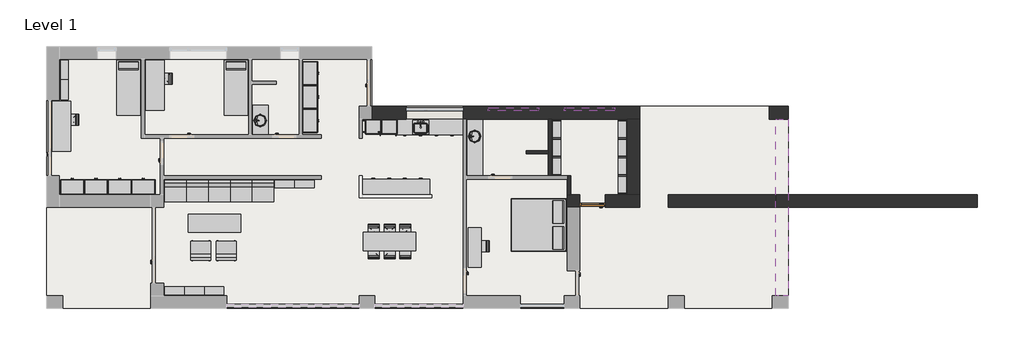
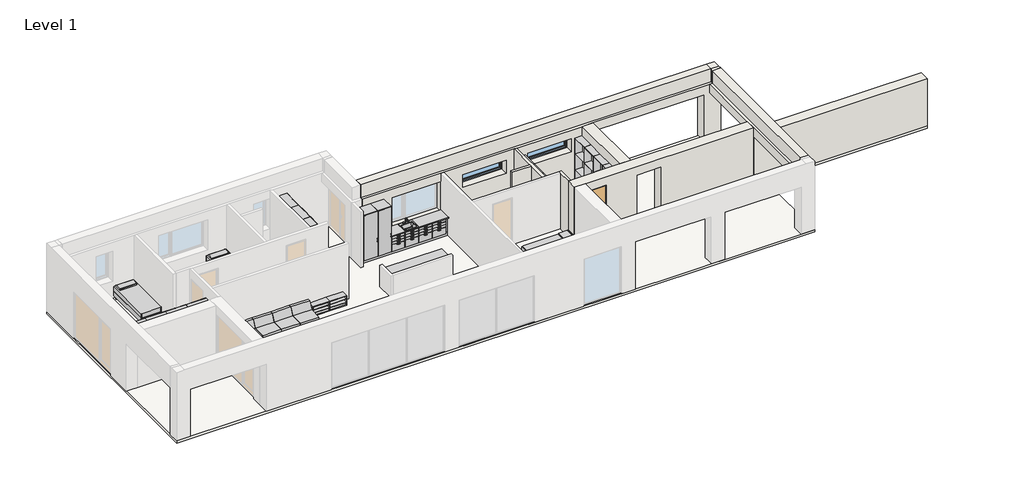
# One storey, part 2 of 2: 65 furniture elements, 8 walls, 3 flow terminals, 2 windows, 1 door, 1 slab.
"""IFC4 building model written with IfcOpenShell, lengths in millimetres."""

from ifc_helpers import new_model, si_unit, frame, origin, origin_with_axes, place, context, project, spatial, polyline, outline, extrude, faceted_brep, transform, mapped, element, save
from components import ext_single_flush1_960x2200_mm_7c25dc53, sink_kitchen_single_600_x_535mm_f0c6929d, sink_vanity_round_482_x_482mm_621b7b9b, furniture_c7f23c1d, furniture_56f83323, furniture_641ccf10, furniture_1500_x_500mm_231fc5f9, furniture_1900_x_700mm_ac9d8d07, furniture_2000_x_700mm_040c55c5, furniture_2000_x_700mm_sofa_1e09125b, furniture_700_x_300_x_2200mm_207dd1db, furniture_750_x_300_x_450mm_957a72fb, furniture_750_x_300_x_700mm_660817c4, base_cabinet_4_drawers_600_mm_7743cde6, base_cabinet_4_drawers_600_mm_75a3c887, bed_box_2000_x_2100mm_5f007bae, bed_standard_2100_x_900mm_af0b1266, couch_straight_module_couch_straight_module_fcc397ea, counter_top_counter_top_fbe04672, counter_top_w_sink_counter_top_w_sink_1a22a961, front_plain_front_plain_37046411, front_plain_front_plain_e6c80844, front_plain_front_plain_2_fe2e9d0c, plinth_164mm_a440ec44, plinth_164mm_10810e33, tall_cabinet_double_door_900_mm_12ca9f50, tall_cabinet_single_door_600_mm_6a825e10, vanity_counter_top_w_round_sink_hole_600mm_depth_ba51d22c, vanity_counter_top_w_round_sink_hole_600mm_depth_d806985c, single_light_top_hinged_1920x600_dd11e4f9

model = new_model("IFC4")

# Units and contexts
model_context = context("Model", 3, world=origin())
ifc_project = project(units=[si_unit("LENGTHUNIT", "METRE", prefix="MILLI")], contexts=[model_context])

# Site, building, storey
site = spatial("IfcSite", under=ifc_project)
building = spatial("IfcBuilding", under=site)
storey = spatial("IfcBuildingStorey", under=building, Name="Level 1", Elevation=0.0)

# Door
placement = place(None, origin())
ext_single_flush1_960x2200_mm_shape = ext_single_flush1_960x2200_mm_7c25dc53(model_context)
element("IfcDoor", 1, ObjectType="Ext. Single-Flush1 : 960x2200 mm", at=placement, inside=storey, context=model_context, shape_type="MappedRepresentation", body=[
    mapped(ext_single_flush1_960x2200_mm_shape, transform((20760.0, 4080.0, 0.0), x_axis=(-1.0, 0.0, 0.0), y_axis=(0.0, -1.0, 0.0), z_axis=(0.0, 0.0, 1.0))),
])

# Flow terminals
sink_kitchen_single_600_x_535mm_shape = sink_kitchen_single_600_x_535mm_f0c6929d(model_context)
element("IfcFlowTerminal", 2, ObjectType="Sink Kitchen-Single : 600 x 535mm", at=placement, inside=storey, context=model_context, shape_type="MappedRepresentation", body=[
    mapped(sink_kitchen_single_600_x_535mm_shape, transform((14204.3107594, 6884.4545989, 0.0), x_axis=(1.0, 0.0, 0.0), y_axis=(0.0, 1.0, 0.0), z_axis=(0.0, 0.0, 1.0))),
])
sink_vanity_round_482_x_482mm_shape = sink_vanity_round_482_x_482mm_621b7b9b(model_context)
element("IfcFlowTerminal", 3, ObjectType="Sink Vanity - Round : 482 x 482mm", at=placement, inside=storey, context=model_context, shape_type="MappedRepresentation", body=[
    mapped(sink_vanity_round_482_x_482mm_shape, transform((16358.3901141, 6444.5531607, 0.0), x_axis=(0.0, 1.0, 0.0), y_axis=(-1.0, 0.0, 0.0), z_axis=(0.0, 0.0, 1.0))),
])
element("IfcFlowTerminal", 4, ObjectType="Sink Vanity - Round : 482 x 482mm", at=placement, inside=storey, context=model_context, shape_type="MappedRepresentation", body=[
    mapped(sink_vanity_round_482_x_482mm_shape, transform((8199.0351087, 7049.1198202, 0.0), x_axis=(0.0, 1.0000000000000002, 0.0), y_axis=(-1.0000000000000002, 0.0, 0.0), z_axis=(0.0, 0.0, 1.0))),
])

# Furniture
furniture_shape = furniture_c7f23c1d(model_context)
element("IfcFurniture", 5, ObjectType="Armchair - Barcelona : Armchair - Barcelona", at=placement, inside=storey, context=model_context, shape_type="MappedRepresentation", body=[
    mapped(furniture_shape, transform((5860.0, 1780.0, 0.0), x_axis=(-1.0000000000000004, 0.0, 0.0), y_axis=(0.0, -1.0000000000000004, 0.0), z_axis=(0.0, 0.0, 1.0))),
])
element("IfcFurniture", 6, ObjectType="Armchair - Barcelona : Armchair - Barcelona", at=placement, inside=storey, context=model_context, shape_type="MappedRepresentation", body=[
    mapped(furniture_shape, transform((6820.0, 1780.0, 0.0), x_axis=(-1.0, 0.0, 0.0), y_axis=(0.0, -1.0, 0.0), z_axis=(0.0, 0.0, 1.0))),
])
furniture_2_shape = furniture_56f83323(model_context)
element("IfcFurniture", 7, ObjectType="Chair - Allround : Chair - allround", at=placement, inside=storey, context=model_context, shape_type="MappedRepresentation", body=[
    mapped(furniture_2_shape, transform((13040.0, 2890.0, 0.0), x_axis=(1.0, 0.0, 0.0), y_axis=(0.0, 1.0, 0.0), z_axis=(0.0, 0.0, 1.0))),
])
element("IfcFurniture", 8, ObjectType="Chair - Allround : Chair - allround", at=placement, inside=storey, context=model_context, shape_type="MappedRepresentation", body=[
    mapped(furniture_2_shape, transform((12440.0, 2890.0, 0.0), x_axis=(1.0, 0.0, 0.0), y_axis=(0.0, 1.0, 0.0), z_axis=(0.0, 0.0, 1.0))),
])
element("IfcFurniture", 9, ObjectType="Chair - Allround : Chair - allround", at=placement, inside=storey, context=model_context, shape_type="MappedRepresentation", body=[
    mapped(furniture_2_shape, transform((13640.0, 2190.0, 0.0), x_axis=(-1.0, 0.0, 0.0), y_axis=(0.0, -1.0, 0.0), z_axis=(0.0, 0.0, 1.0))),
])
element("IfcFurniture", 10, ObjectType="Chair - Allround : Chair - allround", at=placement, inside=storey, context=model_context, shape_type="MappedRepresentation", body=[
    mapped(furniture_2_shape, transform((905.0, 7180.0, 0.0), x_axis=(0.0, -1.0000000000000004, 0.0), y_axis=(1.0000000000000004, 0.0, 0.0), z_axis=(0.0, 0.0, 1.0))),
])
element("IfcFurniture", 11, ObjectType="Chair - Allround : Chair - allround", at=placement, inside=storey, context=model_context, shape_type="MappedRepresentation", body=[
    mapped(furniture_2_shape, transform((4460.0, 8740.0, 0.0), x_axis=(0.0, -1.0000000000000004, 0.0), y_axis=(1.0000000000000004, 0.0, 0.0), z_axis=(0.0, 0.0, 1.0))),
])
element("IfcFurniture", 12, ObjectType="Chair - Allround : Chair - allround", at=placement, inside=storey, context=model_context, shape_type="MappedRepresentation", body=[
    mapped(furniture_2_shape, transform((16525.0, 2370.0, 0.0), x_axis=(0.0, -1.0000000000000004, 0.0), y_axis=(1.0000000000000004, 0.0, 0.0), z_axis=(0.0, 0.0, 1.0))),
])
furniture_3_shape = furniture_641ccf10(model_context)
element("IfcFurniture", 13, ObjectType="Chair - Allround : Chair - allround", at=placement, inside=storey, context=model_context, shape_type="MappedRepresentation", body=[
    mapped(furniture_3_shape, transform((13640.0, 2890.0, 0.0), x_axis=(-1.0, 0.0, 0.0), y_axis=(0.0, -1.0, 0.0), z_axis=(0.0, 0.0, 1.0))),
])
element("IfcFurniture", 14, ObjectType="Chair - Allround : Chair - allround", at=placement, inside=storey, context=model_context, shape_type="MappedRepresentation", body=[
    mapped(furniture_3_shape, transform((13040.0, 2190.0, 0.0), x_axis=(1.0, 0.0, 0.0), y_axis=(0.0, 1.0, 0.0), z_axis=(0.0, 0.0, 1.0))),
])
element("IfcFurniture", 15, ObjectType="Chair - Allround : Chair - allround", at=placement, inside=storey, context=model_context, shape_type="MappedRepresentation", body=[
    mapped(furniture_3_shape, transform((12440.0, 2190.0, 0.0), x_axis=(1.0, 0.0, 0.0), y_axis=(0.0, 1.0, 0.0), z_axis=(0.0, 0.0, 1.0))),
])
furniture_1500_x_500mm_shape = furniture_1500_x_500mm_231fc5f9(model_context)
element("IfcFurniture", 16, ObjectType="Table - Allround : 1500 x 500mm", at=placement, inside=storey, context=model_context, shape_type="MappedRepresentation", body=[
    mapped(furniture_1500_x_500mm_shape, transform((16275.0, 2320.0, 0.0), x_axis=(0.0, 1.0000000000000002, 0.0), y_axis=(-1.0000000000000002, 0.0, 0.0), z_axis=(0.0, 0.0, 1.0))),
])
furniture_1900_x_700mm_shape = furniture_1900_x_700mm_ac9d8d07(model_context)
element("IfcFurniture", 17, ObjectType="Table - Allround : 1900 x 700mm", at=placement, inside=storey, context=model_context, shape_type="MappedRepresentation", body=[
    mapped(furniture_1900_x_700mm_shape, transform((555.0, 6930.0, 0.0), x_axis=(0.0, 1.0, 0.0), y_axis=(-1.0, 0.0, 0.0), z_axis=(0.0, 0.0, 1.0))),
])
element("IfcFurniture", 18, ObjectType="Table - Allround : 1900 x 700mm", at=placement, inside=storey, context=model_context, shape_type="MappedRepresentation", body=[
    mapped(furniture_1900_x_700mm_shape, transform((4110.0, 8490.0, 0.0), x_axis=(0.0, 1.0, 0.0), y_axis=(-1.0, 0.0, 0.0), z_axis=(0.0, 0.0, 1.0))),
])
furniture_2000_x_700mm_shape = furniture_2000_x_700mm_040c55c5(model_context)
element("IfcFurniture", 19, ObjectType="Table - Allround : 2000 x 700mm", at=placement, inside=storey, context=model_context, shape_type="MappedRepresentation", body=[
    mapped(furniture_2000_x_700mm_shape, transform((13040.0, 2540.0, 0.0), x_axis=(1.0, 0.0, 0.0), y_axis=(0.0, 1.0, 0.0), z_axis=(0.0, 0.0, 1.0))),
])
furniture_2000_x_700mm_sofa_shape = furniture_2000_x_700mm_sofa_1e09125b(model_context)
element("IfcFurniture", 20, ObjectType="Table - Allround : 2000 x 700mm Sofa", at=placement, inside=storey, context=model_context, shape_type="MappedRepresentation", body=[
    mapped(furniture_2000_x_700mm_sofa_shape, transform((6380.0, 3240.0, 0.0), x_axis=(1.0, 0.0, 0.0), y_axis=(0.0, 1.0, 0.0), z_axis=(0.0, 0.0, 1.0))),
])
furniture_700_x_300_x_2200mm_shape = furniture_700_x_300_x_2200mm_207dd1db(model_context)
element("IfcFurniture", 21, ObjectType="Shelving (Floor) - Allround : 700 x 300 x 2200mm", at=placement, inside=storey, context=model_context, shape_type="MappedRepresentation", body=[
    mapped(furniture_700_x_300_x_2200mm_shape, transform((19085.2, 6810.0, 0.0), x_axis=(0.0, 1.0000000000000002, 0.0), y_axis=(-1.0000000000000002, 0.0, 0.0), z_axis=(0.0, 0.0, 1.0))),
])
element("IfcFurniture", 22, ObjectType="Shelving (Floor) - Allround : 700 x 300 x 2200mm", at=placement, inside=storey, context=model_context, shape_type="MappedRepresentation", body=[
    mapped(furniture_700_x_300_x_2200mm_shape, transform((19085.2, 6110.0, 0.0), x_axis=(0.0, 1.0000000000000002, 0.0), y_axis=(-1.0000000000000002, 0.0, 0.0), z_axis=(0.0, 0.0, 1.0))),
])
element("IfcFurniture", 23, ObjectType="Shelving (Floor) - Allround : 700 x 300 x 2200mm", at=placement, inside=storey, context=model_context, shape_type="MappedRepresentation", body=[
    mapped(furniture_700_x_300_x_2200mm_shape, transform((19085.2, 5410.0, 0.0), x_axis=(0.0, 1.0000000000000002, 0.0), y_axis=(-1.0000000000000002, 0.0, 0.0), z_axis=(0.0, 0.0, 1.0))),
])
element("IfcFurniture", 24, ObjectType="Shelving (Floor) - Allround : 700 x 300 x 2200mm", at=placement, inside=storey, context=model_context, shape_type="MappedRepresentation", body=[
    mapped(furniture_700_x_300_x_2200mm_shape, transform((21585.2, 6810.0, 0.0), x_axis=(0.0, 1.0000000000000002, 0.0), y_axis=(-1.0000000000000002, 0.0, 0.0), z_axis=(0.0, 0.0, 1.0))),
])
element("IfcFurniture", 25, ObjectType="Shelving (Floor) - Allround : 700 x 300 x 2200mm", at=placement, inside=storey, context=model_context, shape_type="MappedRepresentation", body=[
    mapped(furniture_700_x_300_x_2200mm_shape, transform((21585.2, 6110.0, 0.0), x_axis=(0.0, 1.0000000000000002, 0.0), y_axis=(-1.0000000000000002, 0.0, 0.0), z_axis=(0.0, 0.0, 1.0))),
])
element("IfcFurniture", 26, ObjectType="Shelving (Floor) - Allround : 700 x 300 x 2200mm", at=placement, inside=storey, context=model_context, shape_type="MappedRepresentation", body=[
    mapped(furniture_700_x_300_x_2200mm_shape, transform((21585.2, 5410.0, 0.0), x_axis=(0.0, 1.0000000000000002, 0.0), y_axis=(-1.0000000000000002, 0.0, 0.0), z_axis=(0.0, 0.0, 1.0))),
])
element("IfcFurniture", 27, ObjectType="Shelving (Floor) - Allround : 700 x 300 x 2200mm", at=placement, inside=storey, context=model_context, shape_type="MappedRepresentation", body=[
    mapped(furniture_700_x_300_x_2200mm_shape, transform((21585.2, 4710.0, 0.0), x_axis=(0.0, 1.0000000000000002, 0.0), y_axis=(-1.0000000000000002, 0.0, 0.0), z_axis=(0.0, 0.0, 1.0))),
])
furniture_750_x_300_x_450mm_shape = furniture_750_x_300_x_450mm_957a72fb(model_context)
element("IfcFurniture", 28, ObjectType="Shelving (Floor) - Allround : 750 x 300 x 450mm", at=placement, inside=storey, context=model_context, shape_type="MappedRepresentation", body=[
    mapped(furniture_750_x_300_x_450mm_shape, transform((9045.0, 5034.8, 0.0), x_axis=(1.0, 0.0, 0.0), y_axis=(0.0, 1.0, 0.0), z_axis=(0.0, 0.0, 1.0))),
])
element("IfcFurniture", 29, ObjectType="Shelving (Floor) - Allround : 750 x 300 x 450mm", at=placement, inside=storey, context=model_context, shape_type="MappedRepresentation", body=[
    mapped(furniture_750_x_300_x_450mm_shape, transform((9795.0, 5034.8, 0.0), x_axis=(1.0, 0.0, 0.0), y_axis=(0.0, 1.0, 0.0), z_axis=(0.0, 0.0, 1.0))),
])
element("IfcFurniture", 30, ObjectType="Shelving (Floor) - Allround : 750 x 300 x 450mm", at=placement, inside=storey, context=model_context, shape_type="MappedRepresentation", body=[
    mapped(furniture_750_x_300_x_450mm_shape, transform((4855.0, 974.8, 0.0), x_axis=(1.0, 0.0, 0.0), y_axis=(0.0, 1.0, 0.0), z_axis=(0.0, 0.0, 1.0))),
])
element("IfcFurniture", 31, ObjectType="Shelving (Floor) - Allround : 750 x 300 x 450mm", at=placement, inside=storey, context=model_context, shape_type="MappedRepresentation", body=[
    mapped(furniture_750_x_300_x_450mm_shape, transform((5605.0, 974.8, 0.0), x_axis=(1.0, 0.0, 0.0), y_axis=(0.0, 1.0, 0.0), z_axis=(0.0, 0.0, 1.0))),
])
element("IfcFurniture", 32, ObjectType="Shelving (Floor) - Allround : 750 x 300 x 450mm", at=placement, inside=storey, context=model_context, shape_type="MappedRepresentation", body=[
    mapped(furniture_750_x_300_x_450mm_shape, transform((6355.0, 974.8, 0.0), x_axis=(1.0, 0.0, 0.0), y_axis=(0.0, 1.0, 0.0), z_axis=(0.0, 0.0, 1.0))),
])
furniture_750_x_300_x_700mm_shape = furniture_750_x_300_x_700mm_660817c4(model_context)
element("IfcFurniture", 33, ObjectType="Shelving (Floor) - Allround : 750 x 300 x 700mm", at=placement, inside=storey, context=model_context, shape_type="MappedRepresentation", body=[
    mapped(furniture_750_x_300_x_700mm_shape, transform((365.2, 9065.0, 0.0), x_axis=(0.0, 1.0000000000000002, 0.0), y_axis=(-1.0000000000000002, 0.0, 0.0), z_axis=(0.0, 0.0, 1.0))),
])
element("IfcFurniture", 34, ObjectType="Shelving (Floor) - Allround : 750 x 300 x 700mm", at=placement, inside=storey, context=model_context, shape_type="MappedRepresentation", body=[
    mapped(furniture_750_x_300_x_700mm_shape, transform((365.2, 8315.0, 0.0), x_axis=(0.0, 1.0000000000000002, 0.0), y_axis=(-1.0000000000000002, 0.0, 0.0), z_axis=(0.0, 0.0, 1.0))),
])
base_cabinet_4_drawers_600_mm_shape = base_cabinet_4_drawers_600_mm_7743cde6(model_context)
element("IfcFurniture", 35, ObjectType="Base Cabinet - 4 Drawers : 600 mm", at=placement, inside=storey, context=model_context, shape_type="MappedRepresentation", body=[
    mapped(base_cabinet_4_drawers_600_mm_shape, transform((13575.2996736, 7200.0, 0.0), x_axis=(1.0, 0.0, 0.0), y_axis=(0.0, 1.0, 0.0), z_axis=(0.0, 0.0, 1.0))),
])
element("IfcFurniture", 36, ObjectType="Base Cabinet - 4 Drawers : 600 mm", at=placement, inside=storey, context=model_context, shape_type="MappedRepresentation", body=[
    mapped(base_cabinet_4_drawers_600_mm_shape, transform((14775.2996736, 7200.0, 0.0), x_axis=(1.0, 0.0, 0.0), y_axis=(0.0, 1.0, 0.0), z_axis=(0.0, 0.0, 1.0))),
])
element("IfcFurniture", 37, ObjectType="Base Cabinet - 4 Drawers : 600 mm", at=placement, inside=storey, context=model_context, shape_type="MappedRepresentation", body=[
    mapped(base_cabinet_4_drawers_600_mm_shape, transform((15375.2996736, 7200.0, 0.0), x_axis=(1.0, 0.0, 0.0), y_axis=(0.0, 1.0, 0.0), z_axis=(0.0, 0.0, 1.0))),
])
element("IfcFurniture", 38, ObjectType="Base Cabinet - 4 Drawers : 600 mm", at=placement, inside=storey, context=model_context, shape_type="MappedRepresentation", body=[
    mapped(base_cabinet_4_drawers_600_mm_shape, transform((12464.7003264, 4320.0, 0.0), x_axis=(-1.0, 0.0, 0.0), y_axis=(0.0, -1.0, 0.0), z_axis=(0.0, 0.0, 1.0))),
])
element("IfcFurniture", 39, ObjectType="Base Cabinet - 4 Drawers : 600 mm", at=placement, inside=storey, context=model_context, shape_type="MappedRepresentation", body=[
    mapped(base_cabinet_4_drawers_600_mm_shape, transform((13064.7003264, 4320.0, 0.0), x_axis=(-1.0, 0.0, 0.0), y_axis=(0.0, -1.0, 0.0), z_axis=(0.0, 0.0, 1.0))),
])
element("IfcFurniture", 40, ObjectType="Base Cabinet - 4 Drawers : 600 mm", at=placement, inside=storey, context=model_context, shape_type="MappedRepresentation", body=[
    mapped(base_cabinet_4_drawers_600_mm_shape, transform((13664.7003264, 4320.0, 0.0), x_axis=(-1.0, 0.0, 0.0), y_axis=(0.0, -1.0, 0.0), z_axis=(0.0, 0.0, 1.0))),
])
element("IfcFurniture", 41, ObjectType="Base Cabinet - 4 Drawers : 600 mm", at=placement, inside=storey, context=model_context, shape_type="MappedRepresentation", body=[
    mapped(base_cabinet_4_drawers_600_mm_shape, transform((14264.7003264, 4320.0, 0.0), x_axis=(-1.0, 0.0, 0.0), y_axis=(0.0, -1.0, 0.0), z_axis=(0.0, 0.0, 1.0))),
])
base_cabinet_4_drawers_600_mm_2_shape = base_cabinet_4_drawers_600_mm_75a3c887(model_context)
element("IfcFurniture", 42, ObjectType="Base Cabinet - 4 Drawers : 600 mm", at=placement, inside=storey, context=model_context, shape_type="MappedRepresentation", body=[
    mapped(base_cabinet_4_drawers_600_mm_2_shape, transform((14175.2996736, 7200.0, 0.0), x_axis=(1.0, 0.0, 0.0), y_axis=(0.0, 1.0, 0.0), z_axis=(0.0, 0.0, 1.0))),
])
bed_box_2000_x_2100mm_shape = bed_box_2000_x_2100mm_5f007bae(model_context)
element("IfcFurniture", 43, ObjectType="Bed - Box : 2000 x 2100mm", at=placement, inside=storey, context=model_context, shape_type="MappedRepresentation", body=[
    mapped(bed_box_2000_x_2100mm_shape, transform((18944.4295082, 3509.152459, 0.0), x_axis=(0.0, -1.0, 0.0), y_axis=(1.0, 0.0, 0.0), z_axis=(0.0, 0.0, 1.0))),
])
bed_standard_2100_x_900mm_shape = bed_standard_2100_x_900mm_af0b1266(model_context)
element("IfcFurniture", 44, ObjectType="Bed - Standard : 2100 x 900mm", at=placement, inside=storey, context=model_context, shape_type="MappedRepresentation", body=[
    mapped(bed_standard_2100_x_900mm_shape, transform((2838.5114754, 8435.595082, 0.0), x_axis=(1.0, 0.0, 0.0), y_axis=(0.0, 1.0, 0.0), z_axis=(0.0, 0.0, 1.0))),
])
element("IfcFurniture", 45, ObjectType="Bed - Standard : 2100 x 900mm", at=placement, inside=storey, context=model_context, shape_type="MappedRepresentation", body=[
    mapped(bed_standard_2100_x_900mm_shape, transform((6918.5114754, 8435.595082, 0.0), x_axis=(1.0, 0.0, 0.0), y_axis=(0.0, 1.0, 0.0), z_axis=(0.0, 0.0, 1.0))),
])
couch_straight_module_couch_straight_module_shape = couch_straight_module_couch_straight_module_fcc397ea(model_context)
element("IfcFurniture", 46, ObjectType="Couch - Straight Module : Couch straight module", at=placement, inside=storey, context=model_context, shape_type="MappedRepresentation", body=[
    mapped(couch_straight_module_couch_straight_module_shape, transform((4480.0, 4050.0, 0.0), x_axis=(1.0, 0.0, 0.0), y_axis=(0.0, 1.0, 0.0), z_axis=(0.0, 0.0, 1.0))),
])
element("IfcFurniture", 47, ObjectType="Couch - Straight Module : Couch straight module", at=placement, inside=storey, context=model_context, shape_type="MappedRepresentation", body=[
    mapped(couch_straight_module_couch_straight_module_shape, transform((5310.0, 4050.0, 0.0), x_axis=(1.0, 0.0, 0.0), y_axis=(0.0, 1.0, 0.0), z_axis=(0.0, 0.0, 1.0))),
])
element("IfcFurniture", 48, ObjectType="Couch - Straight Module : Couch straight module", at=placement, inside=storey, context=model_context, shape_type="MappedRepresentation", body=[
    mapped(couch_straight_module_couch_straight_module_shape, transform((6140.0, 4050.0, 0.0), x_axis=(1.0, 0.0, 0.0), y_axis=(0.0, 1.0, 0.0), z_axis=(0.0, 0.0, 1.0))),
])
element("IfcFurniture", 49, ObjectType="Couch - Straight Module : Couch straight module", at=placement, inside=storey, context=model_context, shape_type="MappedRepresentation", body=[
    mapped(couch_straight_module_couch_straight_module_shape, transform((6970.0, 4050.0, 0.0), x_axis=(1.0, 0.0, 0.0), y_axis=(0.0, 1.0, 0.0), z_axis=(0.0, 0.0, 1.0))),
])
element("IfcFurniture", 50, ObjectType="Couch - Straight Module : Couch straight module", at=placement, inside=storey, context=model_context, shape_type="MappedRepresentation", body=[
    mapped(couch_straight_module_couch_straight_module_shape, transform((7800.0, 4050.0, 0.0), x_axis=(1.0, 0.0, 0.0), y_axis=(0.0, 1.0, 0.0), z_axis=(0.0, 0.0, 1.0))),
])
counter_top_counter_top_shape = counter_top_counter_top_fbe04672(model_context)
element("IfcFurniture", 51, ObjectType="Counter Top : Counter Top", at=placement, inside=storey, context=model_context, shape_type="MappedRepresentation", body=[
    mapped(counter_top_counter_top_shape, transform((12555.2996736, 4920.0, 0.0), x_axis=(1.0, 0.0, 0.0), y_axis=(0.0, 1.0, 0.0), z_axis=(0.0, 0.0, 1.0))),
])
counter_top_w_sink_counter_top_w_sink_shape = counter_top_w_sink_counter_top_w_sink_1a22a961(model_context)
element("IfcFurniture", 52, ObjectType="Counter Top w Sink : Counter Top w Sink", at=placement, inside=storey, context=model_context, shape_type="MappedRepresentation", body=[
    mapped(counter_top_w_sink_counter_top_w_sink_shape, transform((13875.2996736, 7200.0, 0.0), x_axis=(1.0, 0.0, 0.0), y_axis=(0.0, 1.0, 0.0), z_axis=(0.0, 0.0, 1.0))),
])
front_plain_front_plain_shape = front_plain_front_plain_37046411(model_context)
element("IfcFurniture", 53, ObjectType="Front - Plain : Front - Plain", at=placement, inside=storey, context=model_context, shape_type="MappedRepresentation", body=[
    mapped(front_plain_front_plain_shape, transform((15783.0, 6711.0, 161.0), x_axis=(1.0, 0.0, 0.0), y_axis=(0.0, 1.0, 0.0), z_axis=(0.0, 0.0, 1.0))),
])
element("IfcFurniture", 54, ObjectType="Front - Plain : Front - Plain", at=placement, inside=storey, context=model_context, shape_type="MappedRepresentation", body=[
    mapped(front_plain_front_plain_shape, transform((12057.0, 4809.0, 161.0), x_axis=(-1.0, 0.0, 0.0), y_axis=(0.0, -1.0, 0.0), z_axis=(0.0, 0.0, 1.0))),
])
front_plain_front_plain_2_shape = front_plain_front_plain_e6c80844(model_context)
element("IfcFurniture", 55, ObjectType="Front - Plain : Front - Plain", at=placement, inside=storey, context=model_context, shape_type="MappedRepresentation", body=[
    mapped(front_plain_front_plain_2_shape, transform((12657.0, 6711.0, 161.0), x_axis=(-1.0, 0.0, 0.0), y_axis=(0.0, -1.0, 0.0), z_axis=(0.0, 0.0, 1.0))),
])
front_plain_front_plain_2_2_shape = front_plain_front_plain_2_fe2e9d0c(model_context)
element("IfcFurniture", 56, ObjectType="Front - Plain : Front - Plain 2", at=placement, inside=storey, context=model_context, shape_type="MappedRepresentation", body=[
    mapped(front_plain_front_plain_2_2_shape, transform((12057.0, 6711.0, 161.0), x_axis=(-1.0, 0.0, 0.0), y_axis=(0.0, -1.0, 0.0), z_axis=(0.0, 0.0, 1.0))),
])
plinth_164mm_shape = plinth_164mm_a440ec44(model_context)
element("IfcFurniture", 57, ObjectType="Plinth : 164mm", at=placement, inside=storey, context=model_context, shape_type="MappedRepresentation", body=[
    mapped(plinth_164mm_shape, transform((13875.2996736, 7200.0, 0.0), x_axis=(1.0, 0.0, 0.0), y_axis=(0.0, 1.0, 0.0), z_axis=(0.0, 0.0, 1.0))),
])
plinth_164mm_2_shape = plinth_164mm_10810e33(model_context)
element("IfcFurniture", 58, ObjectType="Plinth : 164mm", at=placement, inside=storey, context=model_context, shape_type="MappedRepresentation", body=[
    mapped(plinth_164mm_2_shape, transform((13304.7003264, 4320.0, 0.0), x_axis=(-1.0000000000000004, 0.0, 0.0), y_axis=(0.0, -1.0000000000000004, 0.0), z_axis=(0.0, 0.0, 1.0))),
])
tall_cabinet_double_door_900_mm_shape = tall_cabinet_double_door_900_mm_12ca9f50(model_context)
element("IfcFurniture", 59, ObjectType="Tall Cabinet - Double door : 900 mm", at=placement, inside=storey, context=model_context, shape_type="MappedRepresentation", body=[
    mapped(tall_cabinet_double_door_900_mm_shape, transform((1014.7003264, 4320.0, 0.0), x_axis=(-1.0000000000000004, 0.0, 0.0), y_axis=(0.0, -1.0000000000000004, 0.0), z_axis=(0.0, 0.0, 1.0))),
])
element("IfcFurniture", 60, ObjectType="Tall Cabinet - Double door : 900 mm", at=placement, inside=storey, context=model_context, shape_type="MappedRepresentation", body=[
    mapped(tall_cabinet_double_door_900_mm_shape, transform((1914.7003264, 4320.0, 0.0), x_axis=(-1.0000000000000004, 0.0, 0.0), y_axis=(0.0, -1.0000000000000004, 0.0), z_axis=(0.0, 0.0, 1.0))),
])
element("IfcFurniture", 61, ObjectType="Tall Cabinet - Double door : 900 mm", at=placement, inside=storey, context=model_context, shape_type="MappedRepresentation", body=[
    mapped(tall_cabinet_double_door_900_mm_shape, transform((2814.7003264, 4320.0, 0.0), x_axis=(-1.0000000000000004, 0.0, 0.0), y_axis=(0.0, -1.0000000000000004, 0.0), z_axis=(0.0, 0.0, 1.0))),
])
element("IfcFurniture", 62, ObjectType="Tall Cabinet - Double door : 900 mm", at=placement, inside=storey, context=model_context, shape_type="MappedRepresentation", body=[
    mapped(tall_cabinet_double_door_900_mm_shape, transform((3714.7003264, 4320.0, 0.0), x_axis=(-1.0000000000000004, 0.0, 0.0), y_axis=(0.0, -1.0000000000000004, 0.0), z_axis=(0.0, 0.0, 1.0))),
])
element("IfcFurniture", 63, ObjectType="Tall Cabinet - Double door : 900 mm", at=placement, inside=storey, context=model_context, shape_type="MappedRepresentation", body=[
    mapped(tall_cabinet_double_door_900_mm_shape, transform((9720.0, 8895.2996736, 0.0), x_axis=(0.0, 1.0000000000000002, 0.0), y_axis=(-1.0000000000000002, 0.0, 0.0), z_axis=(0.0, 0.0, 1.0))),
])
element("IfcFurniture", 64, ObjectType="Tall Cabinet - Double door : 900 mm", at=placement, inside=storey, context=model_context, shape_type="MappedRepresentation", body=[
    mapped(tall_cabinet_double_door_900_mm_shape, transform((9720.0, 7995.2996736, 0.0), x_axis=(0.0, 1.0000000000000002, 0.0), y_axis=(-1.0000000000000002, 0.0, 0.0), z_axis=(0.0, 0.0, 1.0))),
])
element("IfcFurniture", 65, ObjectType="Tall Cabinet - Double door : 900 mm", at=placement, inside=storey, context=model_context, shape_type="MappedRepresentation", body=[
    mapped(tall_cabinet_double_door_900_mm_shape, transform((9720.0, 7095.2996736, 0.0), x_axis=(0.0, 1.0000000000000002, 0.0), y_axis=(-1.0000000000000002, 0.0, 0.0), z_axis=(0.0, 0.0, 1.0))),
])
tall_cabinet_single_door_600_mm_shape = tall_cabinet_single_door_600_mm_6a825e10(model_context)
element("IfcFurniture", 66, ObjectType="Tall Cabinet - Single door : 600 mm", at=placement, inside=storey, context=model_context, shape_type="MappedRepresentation", body=[
    mapped(tall_cabinet_single_door_600_mm_shape, transform((12375.2996736, 7200.0, 0.0), x_axis=(1.0, 0.0, 0.0), y_axis=(0.0, 1.0, 0.0), z_axis=(0.0, 0.0, 1.0))),
])
element("IfcFurniture", 67, ObjectType="Tall Cabinet - Single door : 600 mm", at=placement, inside=storey, context=model_context, shape_type="MappedRepresentation", body=[
    mapped(tall_cabinet_single_door_600_mm_shape, transform((12975.2996736, 7200.0, 0.0), x_axis=(1.0, 0.0, 0.0), y_axis=(0.0, 1.0, 0.0), z_axis=(0.0, 0.0, 1.0))),
])
vanity_counter_top_w_round_sink_hole_600mm_depth_shape = vanity_counter_top_w_round_sink_hole_600mm_depth_ba51d22c(model_context)
element("IfcFurniture", 68, ObjectType="Vanity Counter Top w. Round Sink Hole : 600mm Depth", at=placement, inside=storey, context=model_context, shape_type="MappedRepresentation", body=[
    mapped(vanity_counter_top_w_round_sink_hole_600mm_depth_shape, transform((15960.0, 6367.4622951, 0.0), x_axis=(0.0, 1.0000000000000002, 0.0), y_axis=(-1.0000000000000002, 0.0, 0.0), z_axis=(0.0, 0.0, 1.0))),
])
vanity_counter_top_w_round_sink_hole_600mm_depth_2_shape = vanity_counter_top_w_round_sink_hole_600mm_depth_d806985c(model_context)
element("IfcFurniture", 69, ObjectType="Vanity Counter Top w. Round Sink Hole : 600mm Depth", at=placement, inside=storey, context=model_context, shape_type="MappedRepresentation", body=[
    mapped(vanity_counter_top_w_round_sink_hole_600mm_depth_2_shape, transform((7800.0, 7927.4622951, 0.0), x_axis=(0.0, 1.0000000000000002, 0.0), y_axis=(-1.0000000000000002, 0.0, 0.0), z_axis=(0.0, 0.0, 1.0))),
])

# Slab
element("IfcSlab", 70, ObjectType="Generic - 100mm (Ground)", at=placement, inside=storey, context=model_context, shape_type="SweptSolid", body=[
    extrude(outline(polyline([(12360.0, 9960.0), (12360.0, 7680.0), (28200.0, 7680.0), (28200.0, 4320.0), (35400.0, 4320.0), (35400.0, 3840.0), (28200.0, 3840.0), (28200.0, 0.0), (0.0, 0.0), (0.0, 9960.0), (12360.0, 9960.0)])), frame((0.0, 0.0, -100.0), z_axis=(0.0, 0.0, 1.0), x_axis=(1.0, 0.0, 0.0)), (0.0, 0.0, 1.0), 100.0),
])

# Walls
element("IfcWall", 71, ObjectType="Generic - 120mm (Interior)", at=placement, inside=storey, context=model_context, shape_type="Brep", body=[
    faceted_brep([(19920.0, 4320.0, 0.0), (19920.0, 5040.0, 0.0), (19920.0, 5040.0, 2600.0), (19920.0, 4320.0, 2600.0), (19800.0, 4320.0, 0.0), (19800.0, 4320.0, 2600.0), (19800.0, 4920.0, 2600.0), (19800.0, 5040.0, 2600.0), (19800.0, 5040.0, 0.0), (19800.0, 4920.0, 0.0)], [[[0, 1, 2, 3]], [[4, 5, 6, 7, 8, 9]], [[1, 0, 4, 9, 8]], [[2, 1, 8, 7]], [[0, 3, 5, 4]], [[3, 2, 7, 6, 5]]]),
])
element("IfcWall", 72, ObjectType="Generic - 120mm (Interior)", at=placement, inside=storey, context=model_context, shape_type="Brep", body=[
    faceted_brep([(19200.0, 5040.0, 0.0), (19200.0, 7200.0, 0.0), (19200.0, 7200.0, 2600.0), (19200.0, 5040.0, 2600.0), (19080.0, 5040.0, 0.0), (19080.0, 5040.0, 2600.0), (19080.0, 5880.0, 2600.0), (19080.0, 6000.0, 2600.0), (19080.0, 7200.0, 2600.0), (19080.0, 7200.0, 0.0), (19080.0, 6000.0, 0.0), (19080.0, 5880.0, 0.0)], [[[0, 1, 2, 3]], [[4, 5, 6, 7, 8, 9, 10, 11]], [[1, 0, 4, 11, 10, 9]], [[0, 3, 5, 4]], [[2, 1, 9, 8]], [[3, 2, 8, 7, 6, 5]]]),
])
element("IfcWall", 73, ObjectType="Generic - 120mm (Interior)", at=placement, inside=storey, context=model_context, shape_type="SweptSolid", body=[
    extrude(outline(polyline([(18240.0, 6000.0), (19080.0, 6000.0), (19080.0, 5880.0), (18240.0, 5880.0), (18240.0, 6000.0)])), origin_with_axes(), (0.0, 0.0, 1.0), 2600.0),
])
element("IfcWall", 74, ObjectType="Generic - 480mm (Exterior)", at=placement, inside=storey, context=model_context, shape_type="Brep", body=[
    faceted_brep([(12360.0, 7200.0, 0.0), (15840.0, 7200.0, 0.0), (15960.0, 7200.0, 0.0), (19080.0, 7200.0, 0.0), (19200.0, 7200.0, 0.0), (22080.0, 7200.0, 0.0), (22560.0, 7200.0, 0.0), (22560.0, 7200.0, 2200.0), (27480.0, 7200.0, 2200.0), (27480.0, 7200.0, 0.0), (28200.0, 7200.0, 0.0), (28200.0, 7200.0, 2200.0), (28200.0, 7200.0, 3200.0), (27840.0, 7200.0, 3200.0), (27840.0, 7200.0, 2600.0), (27720.0, 7200.0, 2600.0), (22560.0, 7200.0, 2600.0), (22080.0, 7200.0, 2600.0), (19200.0, 7200.0, 2600.0), (19080.0, 7200.0, 2600.0), (15960.0, 7200.0, 2600.0), (15840.0, 7200.0, 2600.0), (12360.0, 7200.0, 2600.0), (19680.0, 7200.0, 1600.0), (19680.0, 7200.0, 2200.0), (21600.0, 7200.0, 2200.0), (21600.0, 7200.0, 1600.0), (16800.0, 7200.0, 1600.0), (16800.0, 7200.0, 2200.0), (18720.0, 7200.0, 2200.0), (18720.0, 7200.0, 1600.0), (15840.0, 7200.0, 800.0), (13680.0, 7200.0, 800.0), (13680.0, 7200.0, 2200.0), (15840.0, 7200.0, 2200.0), (12360.0, 7680.0, 0.0), (12360.0, 7680.0, 2200.0), (12360.0, 7680.0, 3200.0), (27840.0, 7680.0, 3200.0), (28200.0, 7680.0, 3200.0), (28200.0, 7680.0, 0.0), (27480.0, 7680.0, 0.0), (27480.0, 7680.0, 2200.0), (22560.0, 7680.0, 2200.0), (22560.0, 7680.0, 0.0), (19680.0, 7680.0, 1600.0), (21600.0, 7680.0, 1600.0), (21600.0, 7680.0, 2200.0), (19680.0, 7680.0, 2200.0), (16800.0, 7680.0, 1600.0), (18720.0, 7680.0, 1600.0), (18720.0, 7680.0, 2200.0), (16800.0, 7680.0, 2200.0), (15840.0, 7680.0, 800.0), (15840.0, 7680.0, 2200.0), (13680.0, 7680.0, 2200.0), (13680.0, 7680.0, 800.0), (28200.0, 7320.0, 3200.0), (12360.0, 7320.0, 2600.0), (12360.0, 7320.0, 3200.0), (27840.0, 7320.0, 3200.0), (27840.0, 7320.0, 2600.0)], [[[0, 1, 2, 3, 4, 5, 6, 7, 8, 9, 10, 11, 12, 13, 14, 15, 16, 17, 18, 19, 20, 21, 22], [23, 24, 25, 26], [27, 28, 29, 30], [31, 32, 33, 34]], [[35, 36, 37, 38, 39, 40, 41, 42, 43, 44], [45, 46, 47, 48], [49, 50, 51, 52], [53, 54, 55, 56]], [[12, 11, 10, 40, 39, 57]], [[24, 23, 45, 48]], [[25, 24, 48, 47]], [[26, 25, 47, 46]], [[23, 26, 46, 45]], [[28, 27, 49, 52]], [[29, 28, 52, 51]], [[30, 29, 51, 50]], [[27, 30, 50, 49]], [[54, 53, 31, 34]], [[55, 54, 34, 33]], [[56, 55, 33, 32]], [[53, 56, 32, 31]], [[6, 5, 4, 3, 2, 1, 0, 35, 44]], [[8, 7, 43, 42]], [[9, 8, 42, 41]], [[10, 9, 41, 40]], [[7, 6, 44, 43]], [[0, 22, 58, 59, 37, 36, 35]], [[60, 59, 58, 61]], [[13, 12, 57, 60]], [[13, 60, 61, 14]], [[38, 37, 59, 60]], [[57, 39, 38, 60]], [[22, 21, 20, 19, 18, 17, 16, 15, 14, 61, 58]]]),
])
element("IfcWall", 75, ObjectType="Generic - 480mm (Exterior)", at=placement, inside=storey, context=model_context, shape_type="Brep", body=[
    faceted_brep([(27720.0, 7200.0, 2200.0), (27720.0, 480.0, 2200.0), (27720.0, 480.0, 2600.0), (27720.0, 3840.0, 2600.0), (27720.0, 4320.0, 2600.0), (27720.0, 7200.0, 2600.0), (28200.0, 7200.0, 2200.0), (28200.0, 7200.0, 3200.0), (28200.0, 480.0, 3200.0), (28200.0, 480.0, 2200.0), (27840.0, 7200.0, 2600.0), (27840.0, 7200.0, 3200.0), (27840.0, 480.0, 3200.0), (27840.0, 480.0, 2600.0)], [[[0, 1, 2, 3, 4, 5]], [[6, 7, 8, 9]], [[1, 0, 6, 9]], [[0, 5, 10, 11, 7, 6]], [[2, 1, 9, 8, 12, 13]], [[12, 8, 7, 11]], [[12, 11, 10, 13]], [[5, 4, 3, 2, 13, 10]]]),
])
element("IfcWall", 76, ObjectType="Generic - 480mm (Exterior)", at=placement, inside=storey, context=model_context, shape_type="Brep", body=[
    faceted_brep([(22080.0, 7200.0, 2600.0), (22080.0, 7200.0, 0.0), (22080.0, 4320.0, 0.0), (22080.0, 4320.0, 2600.0), (22560.0, 7200.0, 0.0), (22560.0, 7200.0, 2200.0), (22560.0, 7200.0, 2600.0), (22560.0, 4320.0, 2600.0), (22560.0, 4320.0, 2200.0), (22560.0, 4320.0, 0.0)], [[[0, 1, 2, 3]], [[4, 5, 6, 7, 8, 9]], [[2, 1, 4, 9]], [[0, 6, 5, 4, 1]], [[0, 3, 7, 6]], [[3, 2, 9, 8, 7]]]),
])
element("IfcWall", 77, ObjectType="Generic - 480mm (Exterior)", at=placement, inside=storey, context=model_context, shape_type="SweptSolid", body=[
    extrude(outline(polyline([(27720.0, 4320.0), (35400.0, 4320.0), (35400.0, 3840.0), (27720.0, 3840.0), (27720.0, 4320.0)])), origin_with_axes(), (0.0, 0.0, 1.0), 2200.0),
])
element("IfcWall", 78, ObjectType="Generic - 480mm (Exterior)", at=placement, inside=storey, context=model_context, shape_type="Brep", body=[
    faceted_brep([(19800.0, 4320.0, 0.0), (19800.0, 4320.0, 2600.0), (19920.0, 4320.0, 2600.0), (22080.0, 4320.0, 2600.0), (22560.0, 4320.0, 2600.0), (27720.0, 4320.0, 2600.0), (27720.0, 4320.0, 2200.0), (27720.0, 4320.0, 0.0), (23640.0, 4320.0, 0.0), (23640.0, 4320.0, 2200.0), (22560.0, 4320.0, 2200.0), (22560.0, 4320.0, 0.0), (22080.0, 4320.0, 0.0), (21240.0, 4320.0, 0.0), (21240.0, 4320.0, 2200.0), (20280.0, 4320.0, 2200.0), (20280.0, 4320.0, 0.0), (19920.0, 4320.0, 0.0), (19800.0, 3840.0, 2600.0), (19800.0, 3840.0, 0.0), (20280.0, 3840.0, 0.0), (20280.0, 3840.0, 2200.0), (21240.0, 3840.0, 2200.0), (21240.0, 3840.0, 0.0), (22560.0, 3840.0, 0.0), (22560.0, 3840.0, 2200.0), (23640.0, 3840.0, 2200.0), (23640.0, 3840.0, 0.0), (27720.0, 3840.0, 0.0), (27720.0, 3840.0, 2200.0), (27720.0, 3840.0, 2600.0), (20280.0, 3840.0, 2600.0)], [[[0, 1, 2, 3, 4, 5, 6, 7, 8, 9, 10, 11, 12, 13, 14, 15, 16, 17]], [[18, 19, 20, 21, 22, 23, 24, 25, 26, 27, 28, 29, 30, 31]], [[19, 0, 17, 16, 20]], [[7, 28, 27, 8]], [[11, 24, 23, 13, 12]], [[1, 0, 19, 18]], [[15, 21, 20, 16]], [[21, 15, 14, 22]], [[22, 14, 13, 23]], [[28, 7, 6, 5, 30, 29]], [[9, 26, 25, 10]], [[26, 9, 8, 27]], [[5, 4, 3, 2, 1, 18, 31, 30]], [[10, 25, 24, 11]]]),
])

# Windows
single_light_top_hinged_1920x600_shape = single_light_top_hinged_1920x600_dd11e4f9(model_context)
element("IfcWindow", 79, ObjectType="Single-Light (Top Hinged) : 1920x600", at=placement, inside=storey, context=model_context, shape_type="MappedRepresentation", body=[
    mapped(single_light_top_hinged_1920x600_shape, transform((17760.0, 7440.0, 800.0), x_axis=(1.0, 0.0, 0.0), y_axis=(0.0, 1.0, 0.0), z_axis=(0.0, 0.0, 1.0))),
])
element("IfcWindow", 80, ObjectType="Single-Light (Top Hinged) : 1920x600", at=placement, inside=storey, context=model_context, shape_type="MappedRepresentation", body=[
    mapped(single_light_top_hinged_1920x600_shape, transform((20640.0, 7440.0, 800.0), x_axis=(1.0, 0.0, 0.0), y_axis=(0.0, 1.0, 0.0), z_axis=(0.0, 0.0, 1.0))),
])

save(model, "model.ifc")
